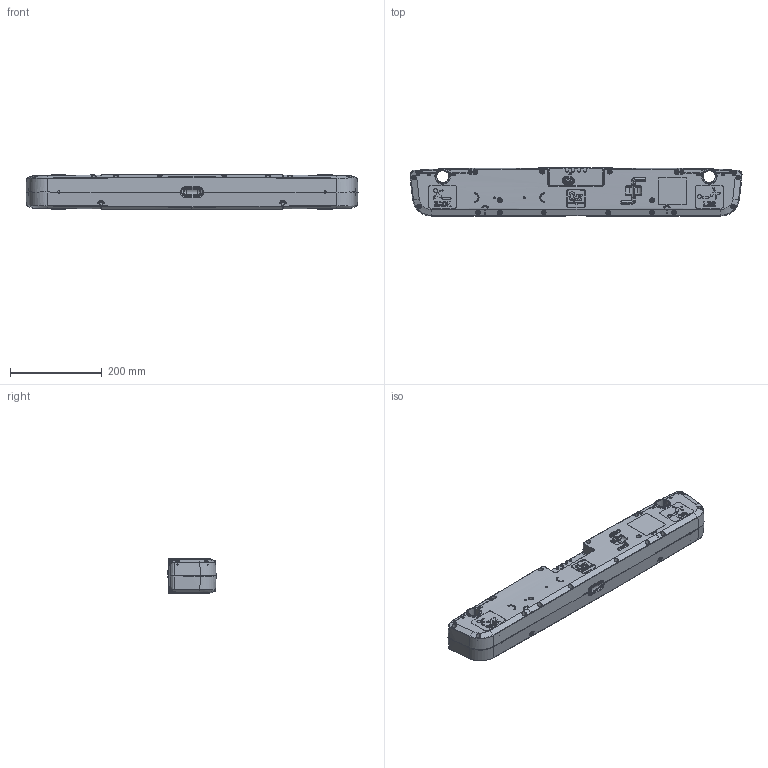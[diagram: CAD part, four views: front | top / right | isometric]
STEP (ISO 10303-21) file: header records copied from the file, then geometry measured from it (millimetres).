
FILE_DESCRIPTION((''),'2;1');
FILE_NAME('TD4_STANDARD','2017-08-18T',('BS'),(''),'CREO PARAMETRIC BY PTC INC, 2016050','CREO PARAMETRIC BY PTC INC, 2016050','');
FILE_SCHEMA(('CONFIG_CONTROL_DESIGN'));
Length unit declared in the file: millimetre
Products named in the file (1): TD4_STANDARD
Bounding box: 723.28 x 105 x 76 mm (x, y, z)
Volume: 4237529.3 mm3; surface area: 385143.3 mm2
Topology: 1 solids, 3 shells, 4091 faces, 11139 edges, 6996 vertices
Faces by surface type: cylinder 1465, plane 1368, bspline 452, torus 373, extrusion 185, sphere 162, cone 86
Entity records: 224065 total; most frequent: CARTESIAN_POINT 126123, ORIENTED_EDGE 21946, DIRECTION 18749, EDGE_CURVE 10973, AXIS2_PLACEMENT_3D 7053, VERTEX_POINT 6994, VECTOR 4643, LINE 4458
